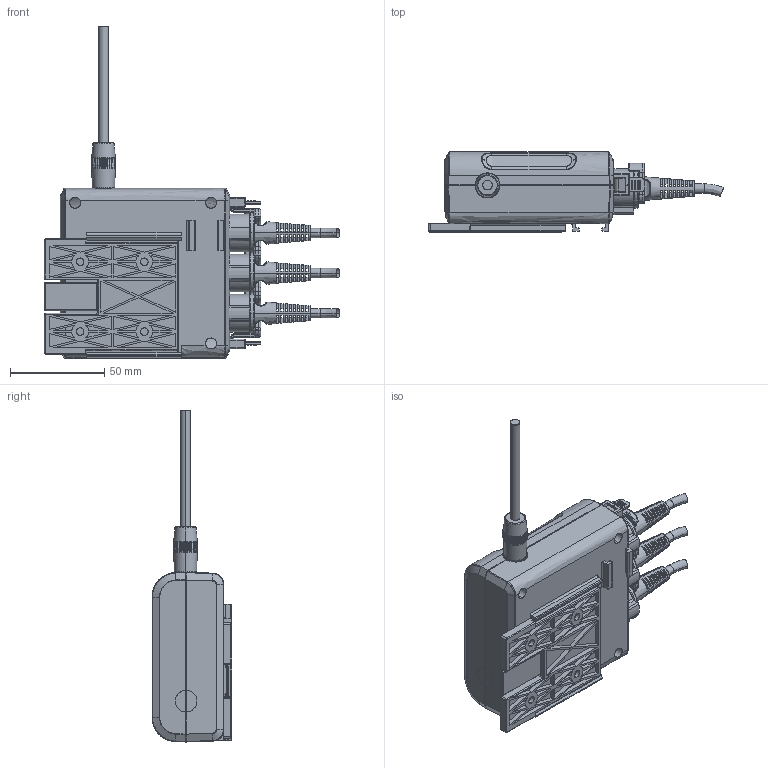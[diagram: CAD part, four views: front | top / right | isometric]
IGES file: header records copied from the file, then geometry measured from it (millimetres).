
Start section: SolidWorks IGES file using analytic representation for surfaces
Global section: file name: C:\Users\lynn\Desktop\CS1\cs1.IGS; native system: SolidWorks 2015; preprocessor: SolidWorks 2015; author: lynn; date: 210929.133904; units: millimetre
Bounding box: 156.51 x 42.31 x 175.96 mm (x, y, z)
Surface area: 59997.4 mm2 (no closed solid volume)
Topology: 0 solids, 0 shells, 1181 faces, 10875 edges, 10874 vertices
Faces by surface type: bspline 874, revolution 307
